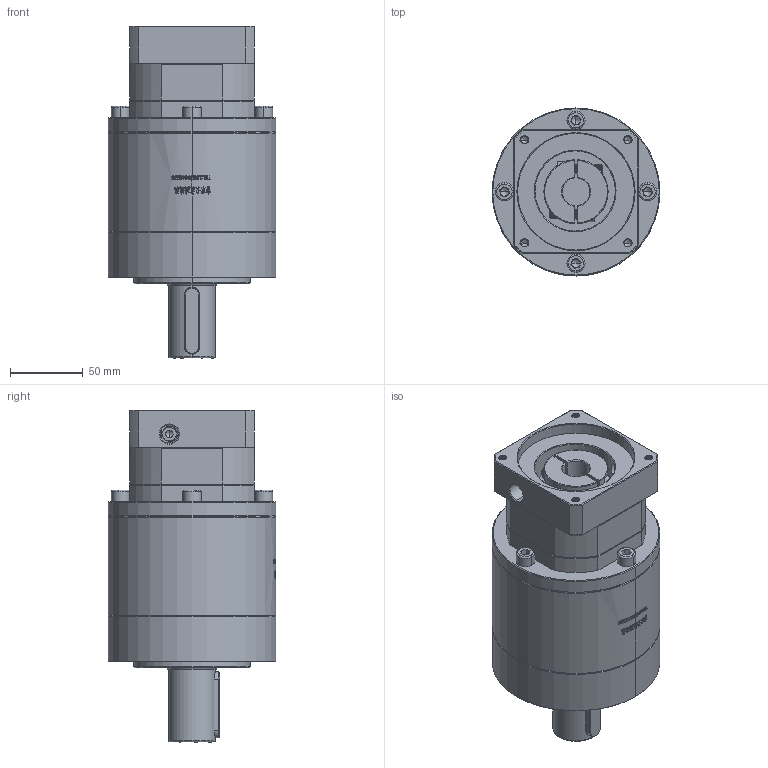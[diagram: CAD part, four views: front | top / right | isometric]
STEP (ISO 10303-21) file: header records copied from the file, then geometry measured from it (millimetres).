
FILE_DESCRIPTION (( 'STEP AP214' ), '1' );
FILE_NAME ('ZE120A-D32-L3-19-80-100-M6.step', '2023-03-13T06:52:32', ( '' ), ( '' ), 'SwSTEP 2.0', 'SolidWorks 2016', '' );
FILE_SCHEMA (( 'AUTOMOTIVE_DESIGN' ));
Length unit declared in the file: millimetre
Products named in the file (1): ZE120A-D32-L3-19-80-100-M6
Bounding box: 115 x 115 x 227.5 mm (x, y, z)
Volume: 1518442 mm3; surface area: 133491.1 mm2
Topology: 5 solids, 6 shells, 2021 faces, 5335 edges, 3405 vertices
Faces by surface type: plane 866, cylinder 500, bspline 333, cone 307, torus 15
Entity records: 116887 total; most frequent: CARTESIAN_POINT 49295, ORIENTED_EDGE 10594, DIRECTION 7928, EDGE_CURVE 5297, VERTEX_POINT 3405, VECTOR 2802, LINE 2802, AXIS2_PLACEMENT_3D 2563
